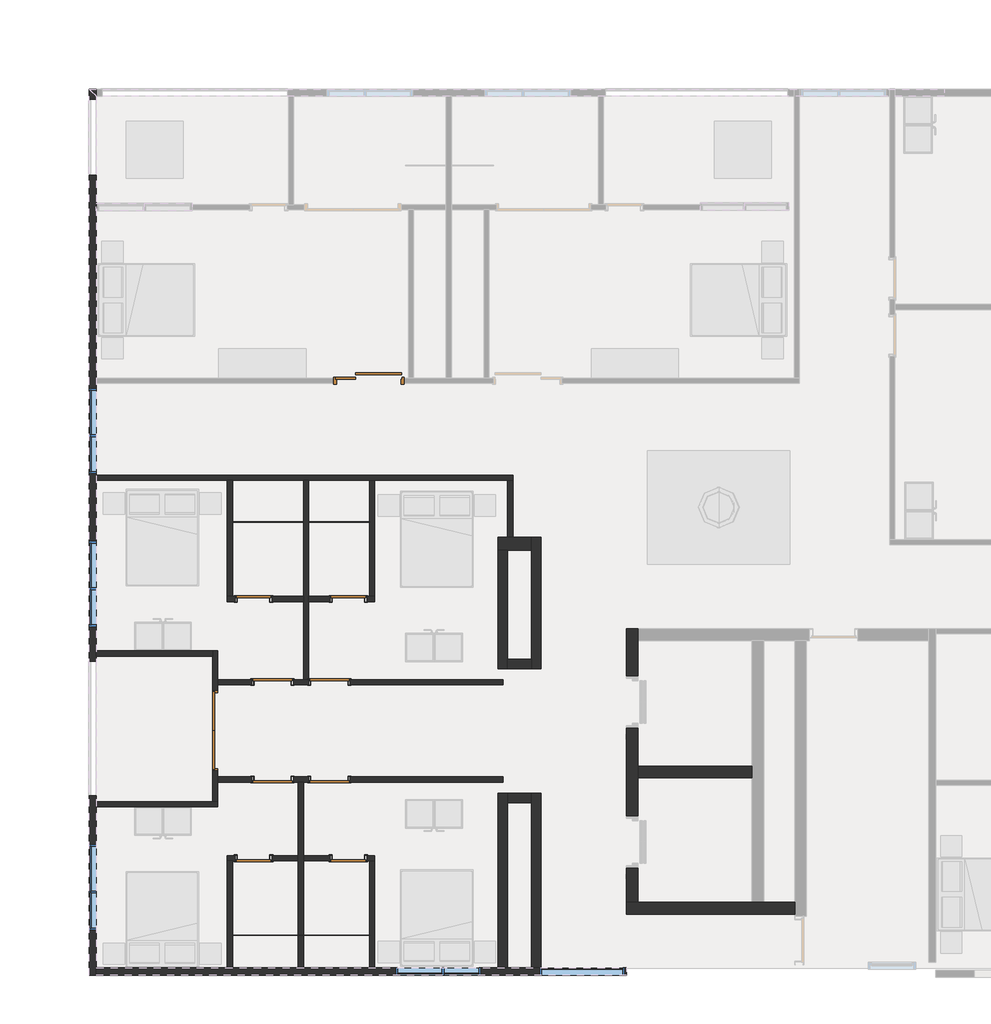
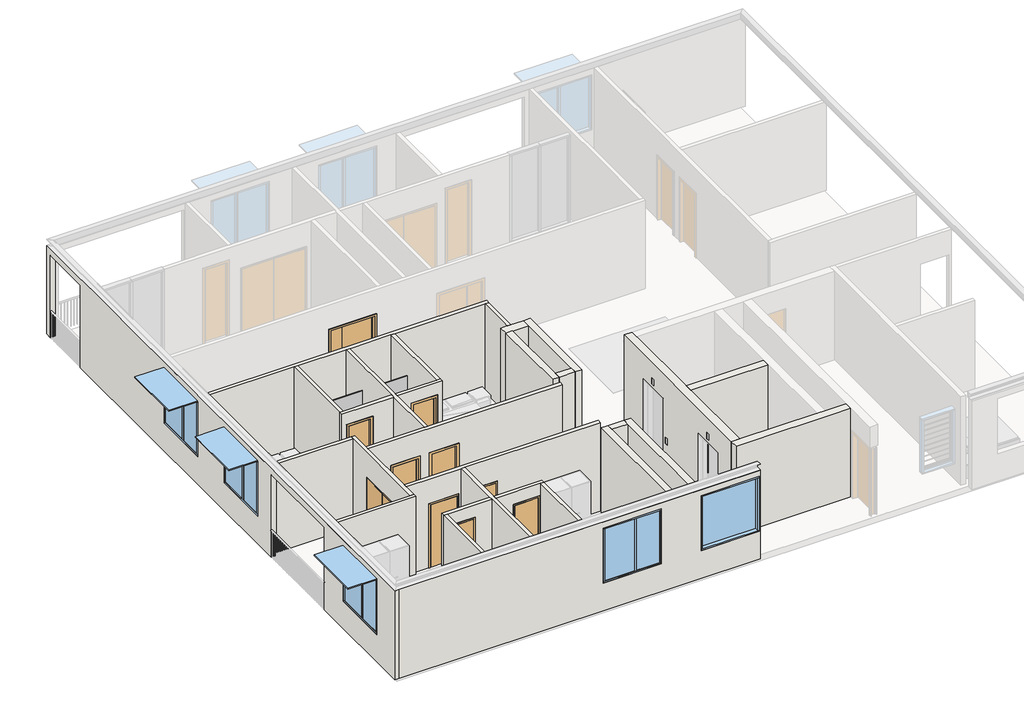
# One storey, part 1 of 4: 27 walls, 10 doors, 5 windows, 2 plates.
"""IFC4 building model written with IfcOpenShell, lengths in millimetres."""

from ifc_helpers import new_model, si_unit, frame, origin, place, context, project, spatial, polyline, outline, extrude, faceted_brep, transform, mapped, element, save
from components import swing_double_aluminium_frame_door_2040x820x2_fabc3898, swing_double_metal_frame_double_uneven_2040x970_420_093d1636, swing_metal_frame_single_dor_a031a637, swing_metal_frame_single_dor_bd4720e7, swing_metal_frame_single_dor1_05198c53, swing_metal_frame_single_dor1_61deca97, system_panel_glazed_5122fece, system_panel_glazed_13d4595b, window_bottom_hung_window_bottom_hung_09912109, window_bottom_hung_window_bottom_hung_26d81d5b, window_fixed_1800mm_wide_217cd763

model = new_model("IFC4")

# Units and contexts
model_context = context("Model", 3, world=origin())
ifc_project = project(units=[si_unit("LENGTHUNIT", "METRE", prefix="MILLI")], contexts=[model_context])

# Site, building, storey
site = spatial("IfcSite", under=ifc_project)
building = spatial("IfcBuilding", under=site)
storey = spatial("IfcBuildingStorey", under=building, Name="8階", Elevation=51600.0)

# Doors
placement = place(None, origin())
swing_double_aluminium_frame_door_2040x820x2_shape = swing_double_aluminium_frame_door_2040x820x2_fabc3898(model_context)
element("IfcDoor", 1, ObjectType="Swing_Double : Aluminium Frame Door 2040x820x2", at=placement, inside=storey, context=model_context, shape_type="MappedRepresentation", body=[
    mapped(swing_double_aluminium_frame_door_2040x820x2_shape, transform((5024.6057353, 4981.8578951, 51600.0), x_axis=(0.0, -1.0, 0.0), y_axis=(1.0, 0.0, 0.0), z_axis=(0.0, 0.0, 1.0))),
])
swing_double_metal_frame_double_uneven_2040x970_420_shape = swing_double_metal_frame_double_uneven_2040x970_420_093d1636(model_context)
element("IfcDoor", 2, ObjectType="Swing_Double : Metal Frame Double Uneven - 2040x970+420", at=placement, inside=storey, context=model_context, shape_type="MappedRepresentation", body=[
    mapped(swing_double_metal_frame_double_uneven_2040x970_420_shape, transform((8053.1645991, 12565.7680774, 51600.0), x_axis=(-1.0, 0.0, 0.0), y_axis=(0.0, -1.0, 0.0), z_axis=(0.0, 0.0, 1.0))),
])
swing_metal_frame_single_dor_shape = swing_metal_frame_single_dor_a031a637(model_context)
element("IfcDoor", 3, ObjectType="Swing_Metal Frame_Single_DOR : 2040h x 820 (2110x920 STUD)", at=placement, inside=storey, context=model_context, shape_type="MappedRepresentation", body=[
    mapped(swing_metal_frame_single_dor_shape, transform((7434.6645991, 4161.2680774, 51600.0), x_axis=(1.0, 0.0, 0.0), y_axis=(0.0, 1.0, 0.0), z_axis=(0.0, 0.0, 1.0))),
])
element("IfcDoor", 4, ObjectType="Swing_Metal Frame_Single_DOR : 2040h x 820 (2110x920 STUD)", at=placement, inside=storey, context=model_context, shape_type="MappedRepresentation", body=[
    mapped(swing_metal_frame_single_dor_shape, transform((6234.6645991, 6214.2680774, 51600.0), x_axis=(-1.0, 0.0, 0.0), y_axis=(0.0, -1.0, 0.0), z_axis=(0.0, 0.0, 1.0))),
])
swing_metal_frame_single_dor_2_shape = swing_metal_frame_single_dor_bd4720e7(model_context)
element("IfcDoor", 5, ObjectType="Swing_Metal Frame_Single_DOR : 2040h x 820 (2110x920 STUD)", at=placement, inside=storey, context=model_context, shape_type="MappedRepresentation", body=[
    mapped(swing_metal_frame_single_dor_2_shape, transform((6234.6645991, 4161.2680774, 51600.0), x_axis=(-1.0, 0.0, 0.0), y_axis=(0.0, -1.0, 0.0), z_axis=(0.0, 0.0, 1.0))),
])
element("IfcDoor", 6, ObjectType="Swing_Metal Frame_Single_DOR : 2040h x 820 (2110x920 STUD)", at=placement, inside=storey, context=model_context, shape_type="MappedRepresentation", body=[
    mapped(swing_metal_frame_single_dor_2_shape, transform((7434.6645991, 6214.2680774, 51600.0), x_axis=(1.0, 0.0, 0.0), y_axis=(0.0, 1.0, 0.0), z_axis=(0.0, 0.0, 1.0))),
])
swing_metal_frame_single_dor1_shape = swing_metal_frame_single_dor1_05198c53(model_context)
element("IfcDoor", 7, ObjectType="Swing_Metal Frame_Single_DOR1 : 2040h x 720 (2110x820 STUD)", at=placement, inside=storey, context=model_context, shape_type="MappedRepresentation", body=[
    mapped(swing_metal_frame_single_dor1_shape, transform((7834.6645991, 2501.0912238, 51600.0), x_axis=(-1.0, 0.0, 0.0), y_axis=(0.0, -1.0, 0.0), z_axis=(0.0, 0.0, 1.0))),
])
element("IfcDoor", 8, ObjectType="Swing_Metal Frame_Single_DOR1 : 2040h x 720 (2110x820 STUD)", at=placement, inside=storey, context=model_context, shape_type="MappedRepresentation", body=[
    mapped(swing_metal_frame_single_dor1_shape, transform((5834.6645991, 7965.493553, 51600.0), x_axis=(1.0, 0.0, 0.0), y_axis=(0.0, 1.0, 0.0), z_axis=(0.0, 0.0, 1.0))),
])
swing_metal_frame_single_dor1_2_shape = swing_metal_frame_single_dor1_61deca97(model_context)
element("IfcDoor", 9, ObjectType="Swing_Metal Frame_Single_DOR1 : 2040h x 720 (2110x820 STUD)", at=placement, inside=storey, context=model_context, shape_type="MappedRepresentation", body=[
    mapped(swing_metal_frame_single_dor1_2_shape, transform((5834.6645991, 2501.0912238, 51600.0), x_axis=(1.0, 0.0, 0.0), y_axis=(0.0, 1.0, 0.0), z_axis=(0.0, 0.0, 1.0))),
])
element("IfcDoor", 10, ObjectType="Swing_Metal Frame_Single_DOR1 : 2040h x 720 (2110x820 STUD)", at=placement, inside=storey, context=model_context, shape_type="MappedRepresentation", body=[
    mapped(swing_metal_frame_single_dor1_2_shape, transform((7834.6645991, 7965.493553, 51600.0), x_axis=(-1.0, 0.0, 0.0), y_axis=(0.0, -1.0, 0.0), z_axis=(0.0, 0.0, 1.0))),
])

# Plates
system_panel_glazed_shape = system_panel_glazed_5122fece(model_context)
element("IfcPlate", 11, ObjectType="System Panel : Glazed", at=placement, inside=storey, context=model_context, shape_type="MappedRepresentation", body=[
    mapped(system_panel_glazed_shape, transform((6834.6645991, 874.0898177, 51600.0), x_axis=(1.0, 0.0, 0.0), y_axis=(0.0, 1.0, 0.0), z_axis=(0.0, 0.0, 1.0))),
])
system_panel_glazed_2_shape = system_panel_glazed_13d4595b(model_context)
element("IfcPlate", 12, ObjectType="System Panel : Glazed", at=placement, inside=storey, context=model_context, shape_type="MappedRepresentation", body=[
    mapped(system_panel_glazed_2_shape, transform((6834.6645991, 9592.4949591, 51600.0), x_axis=(1.0, 0.0, 0.0), y_axis=(0.0, 1.0, 0.0), z_axis=(0.0, 0.0, 1.0))),
])

# Walls
element("IfcWall", 13, ObjectType="Brickwork_Double_270mm", at=placement, inside=storey, context=model_context, shape_type="Brep", body=[
    faceted_brep([(10994.6062665, 8996.2680774, 51600.0), (11694.6062665, 8996.2680774, 51600.0), (11694.6062665, 8996.2680774, 54500.0), (10994.6062665, 8996.2680774, 54500.0), (10994.6062665, 9266.2680774, 51600.0), (10994.6062665, 9266.2680774, 54500.0), (11194.6062665, 9266.2680774, 54500.0), (11304.6062665, 9266.2680774, 54500.0), (11694.6062665, 9266.2680774, 54500.0), (11694.6062665, 9266.2680774, 51600.0), (11304.6062665, 9266.2680774, 51600.0), (11194.6062665, 9266.2680774, 51600.0)], [[[0, 1, 2, 3]], [[4, 5, 6, 7, 8, 9, 10, 11]], [[1, 0, 4, 11, 10, 9]], [[3, 2, 8, 7, 6, 5]], [[0, 3, 5, 4]], [[2, 1, 9, 8]]]),
])
element("IfcWall", 14, ObjectType="Whte Paint Finish", at=placement, inside=storey, context=model_context, shape_type="Brep", body=[
    faceted_brep([(2519.6057353, 39.0898177, 54500.0), (13694.6062665, 39.0898177, 54500.0), (13694.6062665, 189.0898177, 54500.0), (11894.6062665, 189.0898177, 54500.0), (11694.6062665, 189.0898177, 54500.0), (8389.6645991, 189.0898177, 54500.0), (8279.6645991, 189.0898177, 54500.0), (6889.6645991, 189.0898177, 54500.0), (6779.6645991, 189.0898177, 54500.0), (5389.6645991, 189.0898177, 54500.0), (5279.6645991, 189.0898177, 54500.0), (2519.6057353, 189.0898177, 54500.0), (11869.6062665, 39.0898177, 52500.0), (13669.6062665, 39.0898177, 52500.0), (13669.6062665, 189.0898177, 52500.0), (11869.6062665, 189.0898177, 52500.0), (13669.6062665, 39.0898177, 54300.0), (13669.6062665, 189.0898177, 54300.0), (11869.6062665, 39.0898177, 54300.0), (11869.6062665, 189.0898177, 54300.0), (2519.6057353, 39.0898177, 51600.0), (13694.6062665, 39.0898177, 51600.0), (10634.6645991, 39.0898177, 52500.0), (8834.6645991, 39.0898177, 52500.0), (8834.6645991, 39.0898177, 54300.0), (10634.6645991, 39.0898177, 54300.0), (2519.6057353, 189.0898177, 51600.0), (13694.6062665, 189.0898177, 51600.0), (11894.6062665, 189.0898177, 51600.0), (11694.6062665, 189.0898177, 51600.0), (8389.6645991, 189.0898177, 51600.0), (8279.6645991, 189.0898177, 51600.0), (6889.6645991, 189.0898177, 51600.0), (6779.6645991, 189.0898177, 51600.0), (5389.6645991, 189.0898177, 51600.0), (5279.6645991, 189.0898177, 51600.0), (10634.6645991, 189.0898177, 52500.0), (10634.6645991, 189.0898177, 54300.0), (8834.6645991, 189.0898177, 54300.0), (8834.6645991, 189.0898177, 52500.0)], [[[0, 1, 2, 3, 4, 5, 6, 7, 8, 9, 10, 11]], [[12, 13, 14, 15]], [[13, 16, 17, 14]], [[16, 18, 19, 17]], [[18, 12, 15, 19]], [[20, 21, 1, 0], [12, 18, 16, 13], [22, 23, 24, 25]], [[26, 11, 10, 9, 8, 7, 6, 5, 4, 3, 2, 27, 28, 29, 30, 31, 32, 33, 34, 35], [15, 14, 17, 19], [36, 37, 38, 39]], [[21, 20, 26, 35, 34, 33, 32, 31, 30, 29, 28, 27]], [[1, 21, 27, 2]], [[20, 0, 11, 26]], [[37, 36, 22, 25]], [[38, 37, 25, 24]], [[39, 38, 24, 23]], [[36, 39, 23, 22]]]),
])
element("IfcWall", 15, ObjectType="Whte Paint Finish", at=placement, inside=storey, context=model_context, shape_type="Brep", body=[
    faceted_brep([(2369.6057353, 18710.0, 54500.0), (2369.6057353, 39.0898177, 54500.0), (2519.6057353, 39.0898177, 54500.0), (2519.6057353, 189.0898177, 54500.0), (2519.6057353, 3586.2680774, 54500.0), (2519.6057353, 3696.2680774, 54500.0), (2519.6057353, 6764.2680774, 54500.0), (2519.6057353, 6874.2680774, 54500.0), (2519.6057353, 10465.005792, 54500.0), (2519.6057353, 10575.005792, 54500.0), (2519.6057353, 12510.7680774, 54500.0), (2519.6057353, 12620.7680774, 54500.0), (2519.6057353, 18560.0, 54500.0), (2519.6057353, 18710.0, 54500.0), (2519.6057353, 39.0898177, 51600.0), (2519.6057353, 189.0898177, 51600.0), (2519.6057353, 3586.2680774, 51600.0), (2519.6057353, 3696.2680774, 51600.0), (2519.6057353, 3816.2680774, 51600.0), (2519.6057353, 3816.2680774, 54300.0), (2519.6057353, 6650.3166994, 54300.0), (2519.6057353, 6650.3166994, 51600.0), (2519.6057353, 6764.2680774, 51600.0), (2519.6057353, 6874.2680774, 51600.0), (2519.6057353, 10465.005792, 51600.0), (2519.6057353, 10575.005792, 51600.0), (2519.6057353, 12510.7680774, 51600.0), (2519.6057353, 12620.7680774, 51600.0), (2519.6057353, 16894.8875971, 51600.0), (2519.6057353, 16894.8875971, 54300.0), (2519.6057353, 18500.0, 54300.0), (2519.6057353, 18500.0, 51600.0), (2519.6057353, 18560.0, 51600.0), (2519.6057353, 18710.0, 51600.0), (2519.6057353, 10605.7680774, 52500.0), (2519.6057353, 10605.7680774, 54300.0), (2519.6057353, 12405.7680774, 54300.0), (2519.6057353, 12405.7680774, 52500.0), (2519.6057353, 990.6340387, 52500.0), (2519.6057353, 990.6340387, 54300.0), (2519.6057353, 2790.6340387, 54300.0), (2519.6057353, 2790.6340387, 52500.0), (2519.6057353, 7385.3166994, 52500.0), (2519.6057353, 7385.3166994, 54300.0), (2519.6057353, 9185.3166994, 54300.0), (2519.6057353, 9185.3166994, 52500.0), (2369.6057353, 18710.0, 51600.0), (2369.6057353, 18500.0, 51600.0), (2369.6057353, 18500.0, 54300.0), (2369.6057353, 16894.8875971, 54300.0), (2369.6057353, 16894.8875971, 51600.0), (2369.6057353, 6650.3166994, 51600.0), (2369.6057353, 6650.3166994, 54300.0), (2369.6057353, 3816.2680774, 54300.0), (2369.6057353, 3816.2680774, 51600.0), (2369.6057353, 39.0898177, 51600.0), (2369.6057353, 10605.7680774, 52500.0), (2369.6057353, 12405.7680774, 52500.0), (2369.6057353, 12405.7680774, 54300.0), (2369.6057353, 10605.7680774, 54300.0), (2369.6057353, 990.6340387, 52500.0), (2369.6057353, 2790.6340387, 52500.0), (2369.6057353, 2790.6340387, 54300.0), (2369.6057353, 990.6340387, 54300.0), (2369.6057353, 7385.3166994, 52500.0), (2369.6057353, 9185.3166994, 52500.0), (2369.6057353, 9185.3166994, 54300.0), (2369.6057353, 7385.3166994, 54300.0)], [[[0, 1, 2, 3, 4, 5, 6, 7, 8, 9, 10, 11, 12, 13]], [[13, 12, 11, 10, 9, 8, 7, 6, 5, 4, 3, 2, 14, 15, 16, 17, 18, 19, 20, 21, 22, 23, 24, 25, 26, 27, 28, 29, 30, 31, 32, 33], [34, 35, 36, 37], [38, 39, 40, 41], [42, 43, 44, 45]], [[1, 0, 46, 47, 48, 49, 50, 51, 52, 53, 54, 55], [56, 57, 58, 59], [60, 61, 62, 63], [64, 65, 66, 67]], [[21, 51, 50, 28, 27, 26, 25, 24, 23, 22]], [[46, 33, 32, 31, 47]], [[18, 17, 16, 15, 14, 55, 54]], [[53, 19, 18, 54]], [[20, 52, 51, 21]], [[19, 53, 52, 20]], [[49, 29, 28, 50]], [[30, 48, 47, 31]], [[29, 49, 48, 30]], [[55, 14, 2, 1]], [[13, 33, 46, 0]], [[35, 34, 56, 59]], [[36, 35, 59, 58]], [[37, 36, 58, 57]], [[34, 37, 57, 56]], [[39, 38, 60, 63]], [[40, 39, 63, 62]], [[41, 40, 62, 61]], [[38, 41, 61, 60]], [[43, 42, 64, 67]], [[44, 43, 67, 66]], [[45, 44, 66, 65]], [[42, 45, 65, 64]]]),
])
element("IfcWall", 16, ObjectType="Brickwork_Single_110mm", at=placement, inside=storey, context=model_context, shape_type="Brep", body=[
    faceted_brep([(5079.6057353, 4216.2680774, 54500.0), (11094.6062665, 4216.2680774, 54500.0), (11094.6062665, 4216.2680774, 51600.0), (7874.6645991, 4216.2680774, 51600.0), (7874.6645991, 4216.2680774, 53690.0), (6994.6645991, 4216.2680774, 53690.0), (6994.6645991, 4216.2680774, 51600.0), (6674.6645991, 4216.2680774, 51600.0), (6674.6645991, 4216.2680774, 53690.0), (5794.6645991, 4216.2680774, 53690.0), (5794.6645991, 4216.2680774, 51600.0), (5079.6057353, 4216.2680774, 51600.0), (11094.6062665, 4106.2680774, 54500.0), (6889.6645991, 4106.2680774, 54500.0), (6779.6645991, 4106.2680774, 54500.0), (5079.6057353, 4106.2680774, 54500.0), (5079.6057353, 4106.2680774, 51600.0), (5794.6645991, 4106.2680774, 51600.0), (5794.6645991, 4106.2680774, 53690.0), (6674.6645991, 4106.2680774, 53690.0), (6674.6645991, 4106.2680774, 51600.0), (6779.6645991, 4106.2680774, 51600.0), (6889.6645991, 4106.2680774, 51600.0), (6994.6645991, 4106.2680774, 51600.0), (6994.6645991, 4106.2680774, 53690.0), (7874.6645991, 4106.2680774, 53690.0), (7874.6645991, 4106.2680774, 51600.0), (11094.6062665, 4106.2680774, 51600.0)], [[[0, 1, 2, 3, 4, 5, 6, 7, 8, 9, 10, 11]], [[12, 13, 14, 15, 16, 17, 18, 19, 20, 21, 22, 23, 24, 25, 26, 27]], [[2, 27, 26, 3]], [[16, 11, 10, 17]], [[20, 7, 6, 23, 22, 21]], [[1, 0, 15, 14, 13, 12]], [[2, 1, 12, 27]], [[0, 11, 16, 15]], [[9, 18, 17, 10]], [[18, 9, 8, 19]], [[19, 8, 7, 20]], [[25, 4, 3, 26]], [[4, 25, 24, 5]], [[5, 24, 23, 6]]]),
])
element("IfcWall", 17, ObjectType="Brickwork_Single_110mm", at=placement, inside=storey, context=model_context, shape_type="Brep", body=[
    faceted_brep([(6779.6645991, 4106.2680774, 51600.0), (6779.6645991, 2556.0912238, 51600.0), (6779.6645991, 2446.0912238, 51600.0), (6779.6645991, 189.0898177, 51600.0), (6779.6645991, 189.0898177, 54500.0), (6779.6645991, 2446.0912238, 54500.0), (6779.6645991, 2556.0912238, 54500.0), (6779.6645991, 4106.2680774, 54500.0), (6889.6645991, 4106.2680774, 51600.0), (6889.6645991, 4106.2680774, 54500.0), (6889.6645991, 2556.0912238, 54500.0), (6889.6645991, 2446.0912238, 54500.0), (6889.6645991, 189.0898177, 54500.0), (6889.6645991, 189.0898177, 51600.0), (6889.6645991, 2446.0912238, 51600.0), (6889.6645991, 2556.0912238, 51600.0)], [[[0, 1, 2, 3, 4, 5, 6, 7]], [[8, 9, 10, 11, 12, 13, 14, 15]], [[3, 2, 1, 0, 8, 15, 14, 13]], [[7, 6, 5, 4, 12, 11, 10, 9]], [[4, 3, 13, 12]], [[0, 7, 9, 8]]]),
])
element("IfcWall", 18, ObjectType="Brickwork_Single_110mm", at=placement, inside=storey, context=model_context, shape_type="Brep", body=[
    faceted_brep([(8389.6645991, 2446.0912238, 51600.0), (8389.6645991, 2446.0912238, 54500.0), (8279.6645991, 2446.0912238, 54500.0), (6889.6645991, 2446.0912238, 54500.0), (6889.6645991, 2446.0912238, 51600.0), (7444.6645991, 2446.0912238, 51600.0), (7444.6645991, 2446.0912238, 54090.0), (8224.6645991, 2446.0912238, 54090.0), (8224.6645991, 2446.0912238, 51600.0), (8279.6645991, 2446.0912238, 51600.0), (8389.6645991, 2556.0912238, 54500.0), (8389.6645991, 2556.0912238, 51600.0), (8224.6645991, 2556.0912238, 51600.0), (8224.6645991, 2556.0912238, 54090.0), (7444.6645991, 2556.0912238, 54090.0), (7444.6645991, 2556.0912238, 51600.0), (6889.6645991, 2556.0912238, 51600.0), (6889.6645991, 2556.0912238, 54500.0)], [[[0, 1, 2, 3, 4, 5, 6, 7, 8, 9]], [[10, 11, 12, 13, 14, 15, 16, 17]], [[11, 0, 9, 8, 12]], [[15, 5, 4, 16]], [[1, 10, 17, 3, 2]], [[4, 3, 17, 16]], [[1, 0, 11, 10]], [[14, 6, 5, 15]], [[6, 14, 13, 7]], [[7, 13, 12, 8]]]),
    faceted_brep([(5279.6645991, 2446.0912238, 54500.0), (5279.6645991, 2446.0912238, 51600.0), (5389.6645991, 2446.0912238, 51600.0), (5444.6645991, 2446.0912238, 51600.0), (5444.6645991, 2446.0912238, 54090.0), (6224.6645991, 2446.0912238, 54090.0), (6224.6645991, 2446.0912238, 51600.0), (6779.6645991, 2446.0912238, 51600.0), (6779.6645991, 2446.0912238, 54500.0), (5389.6645991, 2446.0912238, 54500.0), (5279.6645991, 2556.0912238, 51600.0), (5279.6645991, 2556.0912238, 54500.0), (6779.6645991, 2556.0912238, 54500.0), (6779.6645991, 2556.0912238, 51600.0), (6224.6645991, 2556.0912238, 51600.0), (6224.6645991, 2556.0912238, 54090.0), (5444.6645991, 2556.0912238, 54090.0), (5444.6645991, 2556.0912238, 51600.0)], [[[0, 1, 2, 3, 4, 5, 6, 7, 8, 9]], [[10, 11, 12, 13, 14, 15, 16, 17]], [[1, 10, 17, 3, 2]], [[6, 14, 13, 7]], [[11, 0, 9, 8, 12]], [[8, 7, 13, 12]], [[1, 0, 11, 10]], [[5, 15, 14, 6]], [[15, 5, 4, 16]], [[16, 4, 3, 17]]]),
])
element("IfcWall", 19, ObjectType="Brickwork_Single_110mm", at=placement, inside=storey, context=model_context, shape_type="SweptSolid", body=[
    extrude(outline(polyline([(8279.6645991, 189.0898177), (8279.6645991, 2446.0912238), (8389.6645991, 2446.0912238), (8389.6645991, 189.0898177), (8279.6645991, 189.0898177)])), frame((0.0, 0.0, 51600.0), z_axis=(0.0, 0.0, 1.0), x_axis=(1.0, 0.0, 0.0)), (0.0, 0.0, 1.0), 2900.0),
])
element("IfcWall", 20, ObjectType="Brickwork_Single_110mm", at=placement, inside=storey, context=model_context, shape_type="SweptSolid", body=[
    extrude(outline(polyline([(5279.6645991, 189.0898177), (5279.6645991, 2446.0912238), (5389.6645991, 2446.0912238), (5389.6645991, 189.0898177), (5279.6645991, 189.0898177)])), frame((0.0, 0.0, 51600.0), z_axis=(0.0, 0.0, 1.0), x_axis=(1.0, 0.0, 0.0)), (0.0, 0.0, 1.0), 2900.0),
])
element("IfcWall", 21, ObjectType="Brickwork_Single_110mm", at=placement, inside=storey, context=model_context, shape_type="Brep", body=[
    faceted_brep([(2519.6057353, 3586.2680774, 51600.0), (5079.6057353, 3586.2680774, 51600.0), (5079.6057353, 3586.2680774, 54500.0), (2519.6057353, 3586.2680774, 54500.0), (2519.6057353, 3696.2680774, 51600.0), (2519.6057353, 3696.2680774, 54500.0), (4969.6057353, 3696.2680774, 54500.0), (5079.6057353, 3696.2680774, 54500.0), (5079.6057353, 3696.2680774, 51600.0), (4969.6057353, 3696.2680774, 51600.0)], [[[0, 1, 2, 3]], [[4, 5, 6, 7, 8, 9]], [[1, 0, 4, 9, 8]], [[3, 2, 7, 6, 5]], [[0, 3, 5, 4]], [[2, 1, 8, 7]]]),
])
element("IfcWall", 22, ObjectType="Brickwork_Single_110mm", at=placement, inside=storey, context=model_context, shape_type="Brep", body=[
    faceted_brep([(5079.6057353, 6034.3578951, 53681.0), (5079.6057353, 6034.3578951, 51600.0), (5079.6057353, 6159.2680774, 51600.0), (5079.6057353, 6269.2680774, 51600.0), (5079.6057353, 6874.2680774, 51600.0), (5079.6057353, 6874.2680774, 54500.0), (5079.6057353, 6269.2680774, 54500.0), (5079.6057353, 6159.2680774, 54500.0), (5079.6057353, 4216.2680774, 54500.0), (5079.6057353, 4106.2680774, 54500.0), (5079.6057353, 3696.2680774, 54500.0), (5079.6057353, 3696.2680774, 51600.0), (5079.6057353, 4106.2680774, 51600.0), (5079.6057353, 4216.2680774, 51600.0), (5079.6057353, 4352.3578951, 51600.0), (5079.6057353, 4352.3578951, 53681.0), (4969.6057353, 6874.2680774, 51600.0), (4969.6057353, 6764.2680774, 51600.0), (4969.6057353, 6034.3578951, 51600.0), (4969.6057353, 6034.3578951, 53681.0), (4969.6057353, 4352.3578951, 53681.0), (4969.6057353, 4352.3578951, 51600.0), (4969.6057353, 3696.2680774, 51600.0), (4969.6057353, 3696.2680774, 54500.0), (4969.6057353, 6764.2680774, 54500.0), (4969.6057353, 6874.2680774, 54500.0)], [[[0, 1, 2, 3, 4, 5, 6, 7, 8, 9, 10, 11, 12, 13, 14, 15]], [[16, 17, 18, 19, 20, 21, 22, 23, 24, 25]], [[14, 13, 12, 11, 22, 21]], [[4, 3, 2, 1, 18, 17, 16]], [[10, 9, 8, 7, 6, 5, 25, 24, 23]], [[11, 10, 23, 22]], [[5, 4, 16, 25]], [[19, 18, 1, 0]], [[20, 19, 0, 15]], [[21, 20, 15, 14]]]),
])
element("IfcWall", 23, ObjectType="Brickwork_Single_110mm", at=placement, inside=storey, context=model_context, shape_type="SweptSolid", body=[
    extrude(outline(polyline([(2519.6057353, 6874.2680774), (4969.6057353, 6874.2680774), (4969.6057353, 6764.2680774), (2519.6057353, 6764.2680774), (2519.6057353, 6874.2680774)])), frame((0.0, 0.0, 51600.0), z_axis=(0.0, 0.0, 1.0), x_axis=(1.0, 0.0, 0.0)), (0.0, 0.0, 1.0), 2900.0),
])
element("IfcWall", 24, ObjectType="Brickwork_Single_110mm", at=placement, inside=storey, context=model_context, shape_type="Brep", body=[
    faceted_brep([(11094.6062665, 6159.2680774, 51600.0), (11094.6062665, 6159.2680774, 54500.0), (5079.6057353, 6159.2680774, 54500.0), (5079.6057353, 6159.2680774, 51600.0), (5794.6645991, 6159.2680774, 51600.0), (5794.6645991, 6159.2680774, 53690.0), (6674.6645991, 6159.2680774, 53690.0), (6674.6645991, 6159.2680774, 51600.0), (6994.6645991, 6159.2680774, 51600.0), (6994.6645991, 6159.2680774, 53690.0), (7874.6645991, 6159.2680774, 53690.0), (7874.6645991, 6159.2680774, 51600.0), (11094.6062665, 6269.2680774, 54500.0), (11094.6062665, 6269.2680774, 51600.0), (7874.6645991, 6269.2680774, 51600.0), (7874.6645991, 6269.2680774, 53690.0), (6994.6645991, 6269.2680774, 53690.0), (6994.6645991, 6269.2680774, 51600.0), (6889.6645991, 6269.2680774, 51600.0), (6674.6645991, 6269.2680774, 51600.0), (6674.6645991, 6269.2680774, 53690.0), (5794.6645991, 6269.2680774, 53690.0), (5794.6645991, 6269.2680774, 51600.0), (5079.6057353, 6269.2680774, 51600.0), (5079.6057353, 6269.2680774, 54500.0), (6889.6645991, 6269.2680774, 54500.0), (6999.6645991, 6269.2680774, 54500.0)], [[[0, 1, 2, 3, 4, 5, 6, 7, 8, 9, 10, 11]], [[12, 13, 14, 15, 16, 17, 18, 19, 20, 21, 22, 23, 24, 25, 26]], [[13, 0, 11, 14]], [[3, 23, 22, 4]], [[7, 19, 18, 17, 8]], [[1, 0, 13, 12]], [[2, 1, 12, 26, 25, 24]], [[3, 2, 24, 23]], [[21, 5, 4, 22]], [[5, 21, 20, 6]], [[6, 20, 19, 7]], [[10, 15, 14, 11]], [[15, 10, 9, 16]], [[16, 9, 8, 17]]]),
])
element("IfcWall", 25, ObjectType="Brickwork_Single_110mm", at=placement, inside=storey, context=model_context, shape_type="Brep", body=[
    faceted_brep([(2519.6057353, 10465.005792, 51600.0), (5279.6645991, 10465.005792, 51600.0), (5389.6645991, 10465.005792, 51600.0), (6889.6645991, 10465.005792, 51600.0), (6999.6645991, 10465.005792, 51600.0), (8279.6645991, 10465.005792, 51600.0), (8389.6645991, 10465.005792, 51600.0), (11194.6062665, 10465.005792, 51600.0), (11304.6062665, 10465.005792, 51600.0), (11304.6062665, 10465.005792, 54500.0), (11194.6062665, 10465.005792, 54500.0), (8389.6645991, 10465.005792, 54500.0), (8279.6645991, 10465.005792, 54500.0), (6999.6645991, 10465.005792, 54500.0), (6889.6645991, 10465.005792, 54500.0), (5389.6645991, 10465.005792, 54500.0), (5279.6645991, 10465.005792, 54500.0), (2519.6057353, 10465.005792, 54500.0), (2519.6057353, 10575.005792, 51600.0), (2519.6057353, 10575.005792, 54500.0), (11304.6062665, 10575.005792, 54500.0), (11304.6062665, 10575.005792, 51600.0)], [[[0, 1, 2, 3, 4, 5, 6, 7, 8, 9, 10, 11, 12, 13, 14, 15, 16, 17]], [[18, 19, 20, 21]], [[8, 7, 6, 5, 4, 3, 2, 1, 0, 18, 21]], [[17, 16, 15, 14, 13, 12, 11, 10, 9, 20, 19]], [[0, 17, 19, 18]], [[9, 8, 21, 20]]]),
])
element("IfcWall", 26, ObjectType="Brickwork_Single_110mm", at=placement, inside=storey, context=model_context, shape_type="SweptSolid", body=[
    extrude(outline(polyline([(11194.6062665, 9266.2680774), (11194.6062665, 10465.005792), (11304.6062665, 10465.005792), (11304.6062665, 9266.2680774), (11194.6062665, 9266.2680774)])), frame((0.0, 0.0, 51600.0), z_axis=(0.0, 0.0, 1.0), x_axis=(1.0, 0.0, 0.0)), (0.0, 0.0, 1.0), 2900.0),
])
element("IfcWall", 27, ObjectType="Brickwork_Single_110mm", at=placement, inside=storey, context=model_context, shape_type="Brep", body=[
    faceted_brep([(6889.6645991, 10465.005792, 51600.0), (6889.6645991, 8020.493553, 51600.0), (6889.6645991, 7910.493553, 51600.0), (6889.6645991, 6269.2680774, 51600.0), (6889.6645991, 6269.2680774, 54500.0), (6889.6645991, 7910.493553, 54500.0), (6889.6645991, 8020.493553, 54500.0), (6889.6645991, 10465.005792, 54500.0), (6999.6645991, 10465.005792, 51600.0), (6999.6645991, 10465.005792, 54500.0), (6999.6645991, 8020.493553, 54500.0), (6999.6645991, 7910.493553, 54500.0), (6999.6645991, 6269.2680774, 54500.0), (6999.6645991, 6269.2680774, 51600.0), (6999.6645991, 7910.493553, 51600.0), (6999.6645991, 8020.493553, 51600.0), (6994.6645991, 6269.2680774, 51600.0)], [[[0, 1, 2, 3, 4, 5, 6, 7]], [[8, 9, 10, 11, 12, 13, 14, 15]], [[3, 2, 1, 0, 8, 15, 14, 13, 16]], [[7, 6, 5, 4, 12, 11, 10, 9]], [[4, 3, 16, 13, 12]], [[0, 7, 9, 8]]]),
])
element("IfcWall", 28, ObjectType="Brickwork_Single_110mm", at=placement, inside=storey, context=model_context, shape_type="Brep", body=[
    faceted_brep([(5279.6645991, 7910.493553, 54500.0), (5279.6645991, 7910.493553, 51600.0), (5444.6645991, 7910.493553, 51600.0), (5444.6645991, 7910.493553, 54090.0), (6224.6645991, 7910.493553, 54090.0), (6224.6645991, 7910.493553, 51600.0), (6889.6645991, 7910.493553, 51600.0), (6889.6645991, 7910.493553, 54500.0), (5279.6645991, 8020.493553, 51600.0), (5279.6645991, 8020.493553, 54500.0), (5389.6645991, 8020.493553, 54500.0), (6889.6645991, 8020.493553, 54500.0), (6889.6645991, 8020.493553, 51600.0), (6224.6645991, 8020.493553, 51600.0), (6224.6645991, 8020.493553, 54090.0), (5444.6645991, 8020.493553, 54090.0), (5444.6645991, 8020.493553, 51600.0), (5389.6645991, 8020.493553, 51600.0)], [[[0, 1, 2, 3, 4, 5, 6, 7]], [[8, 9, 10, 11, 12, 13, 14, 15, 16, 17]], [[1, 8, 17, 16, 2]], [[5, 13, 12, 6]], [[9, 0, 7, 11, 10]], [[7, 6, 12, 11]], [[1, 0, 9, 8]], [[4, 14, 13, 5]], [[14, 4, 3, 15]], [[15, 3, 2, 16]]]),
    faceted_brep([(8389.6645991, 7910.493553, 51600.0), (8389.6645991, 7910.493553, 54500.0), (6999.6645991, 7910.493553, 54500.0), (6999.6645991, 7910.493553, 51600.0), (7444.6645991, 7910.493553, 51600.0), (7444.6645991, 7910.493553, 54090.0), (8224.6645991, 7910.493553, 54090.0), (8224.6645991, 7910.493553, 51600.0), (8389.6645991, 8020.493553, 54500.0), (8389.6645991, 8020.493553, 51600.0), (8279.6645991, 8020.493553, 51600.0), (8224.6645991, 8020.493553, 51600.0), (8224.6645991, 8020.493553, 54090.0), (7444.6645991, 8020.493553, 54090.0), (7444.6645991, 8020.493553, 51600.0), (6999.6645991, 8020.493553, 51600.0), (6999.6645991, 8020.493553, 54500.0), (8279.6645991, 8020.493553, 54500.0)], [[[0, 1, 2, 3, 4, 5, 6, 7]], [[8, 9, 10, 11, 12, 13, 14, 15, 16, 17]], [[9, 0, 7, 11, 10]], [[14, 4, 3, 15]], [[1, 8, 17, 16, 2]], [[3, 2, 16, 15]], [[1, 0, 9, 8]], [[13, 5, 4, 14]], [[5, 13, 12, 6]], [[6, 12, 11, 7]]]),
])
element("IfcWall", 29, ObjectType="Brickwork_Single_110mm", at=placement, inside=storey, context=model_context, shape_type="SweptSolid", body=[
    extrude(outline(polyline([(8279.6645991, 8020.493553), (8279.6645991, 10465.005792), (8389.6645991, 10465.005792), (8389.6645991, 8020.493553), (8279.6645991, 8020.493553)])), frame((0.0, 0.0, 51600.0), z_axis=(0.0, 0.0, 1.0), x_axis=(1.0, 0.0, 0.0)), (0.0, 0.0, 1.0), 2900.0),
])
element("IfcWall", 30, ObjectType="Brickwork_Single_110mm", at=placement, inside=storey, context=model_context, shape_type="SweptSolid", body=[
    extrude(outline(polyline([(5279.6645991, 8020.493553), (5279.6645991, 10465.005792), (5389.6645991, 10465.005792), (5389.6645991, 8020.493553), (5279.6645991, 8020.493553)])), frame((0.0, 0.0, 51600.0), z_axis=(0.0, 0.0, 1.0), x_axis=(1.0, 0.0, 0.0)), (0.0, 0.0, 1.0), 2900.0),
])
element("IfcWall", 31, ObjectType="C1 - Concrete Type 2", at=placement, inside=storey, context=model_context, shape_type="SweptSolid", body=[
    extrude(outline(polyline([(11694.6062665, 6497.0008144), (11194.6062665, 6497.0008144), (11194.6062665, 6697.0008144), (11694.6062665, 6697.0008144), (11694.6062665, 6497.0008144)])), frame((0.0, 0.0, 51600.0), z_axis=(0.0, 0.0, 1.0), x_axis=(1.0, 0.0, 0.0)), (0.0, 0.0, 1.0), 2900.0),
])
element("IfcWall", 32, ObjectType="C1 - Concrete Type 2", at=placement, inside=storey, context=model_context, shape_type="Brep", body=[
    faceted_brep([(11194.6062665, 6497.0008144, 51600.0), (11194.6062665, 6697.0008144, 51600.0), (11194.6062665, 8997.0008144, 51600.0), (11194.6062665, 8997.0008144, 54500.0), (11194.6062665, 6697.0008144, 54500.0), (11194.6062665, 6497.0008144, 54500.0), (10994.6062665, 6497.0008144, 51600.0), (10994.6062665, 6497.0008144, 54500.0), (10994.6062665, 8997.0008144, 54500.0), (10994.6062665, 8997.0008144, 51600.0)], [[[0, 1, 2, 3, 4, 5]], [[6, 7, 8, 9]], [[2, 1, 0, 6, 9]], [[3, 2, 9, 8]], [[5, 4, 3, 8, 7]], [[0, 5, 7, 6]]]),
])
element("IfcWall", 33, ObjectType="C1 - Concrete Type 2", at=placement, inside=storey, context=model_context, shape_type="SweptSolid", body=[
    extrude(outline(polyline([(11694.6062665, 3673.0), (11194.6062665, 3673.0), (11194.6062665, 3873.0), (11694.6062665, 3873.0), (11694.6062665, 3673.0)])), frame((0.0, 0.0, 51600.0), z_axis=(0.0, 0.0, 1.0), x_axis=(1.0, 0.0, 0.0)), (0.0, 0.0, 1.0), 2900.0),
])
element("IfcWall", 34, ObjectType="C1 - Concrete Type 2", at=placement, inside=storey, context=model_context, shape_type="Brep", body=[
    faceted_brep([(11194.6062665, 114.0898177, 51600.0), (11194.6062665, 3673.0, 51600.0), (11194.6062665, 3873.0, 51600.0), (11194.6062665, 3873.0, 54500.0), (11194.6062665, 3673.0, 54500.0), (11194.6062665, 114.0898177, 54500.0), (10994.6062665, 114.0898177, 51600.0), (10994.6062665, 114.0898177, 54500.0), (10994.6062665, 3873.0, 54500.0), (10994.6062665, 3873.0, 51600.0)], [[[0, 1, 2, 3, 4, 5]], [[6, 7, 8, 9]], [[2, 1, 0, 6, 9]], [[3, 2, 9, 8]], [[5, 4, 3, 8, 7]], [[0, 5, 7, 6]]]),
])
element("IfcWall", 35, ObjectType="C1 - Concrete Type 2", at=placement, inside=storey, context=model_context, shape_type="Brep", body=[
    faceted_brep([(11894.6062665, 6497.0008144, 51600.0), (11894.6062665, 9266.2680774, 51600.0), (11894.6062665, 9266.2680774, 54500.0), (11894.6062665, 6497.0008144, 54500.0), (11694.6062665, 6497.0008144, 51600.0), (11694.6062665, 6497.0008144, 54500.0), (11694.6062665, 6697.0008144, 54500.0), (11694.6062665, 8996.2680774, 54500.0), (11694.6062665, 9266.2680774, 54500.0), (11694.6062665, 9266.2680774, 51600.0), (11694.6062665, 8996.2680774, 51600.0), (11694.6062665, 6697.0008144, 51600.0)], [[[0, 1, 2, 3]], [[4, 5, 6, 7, 8, 9, 10, 11]], [[1, 0, 4, 11, 10, 9]], [[2, 1, 9, 8]], [[3, 2, 8, 7, 6, 5]], [[0, 3, 5, 4]]]),
])
element("IfcWall", 36, ObjectType="C1 - Concrete Type 2", at=placement, inside=storey, context=model_context, shape_type="Brep", body=[
    faceted_brep([(11694.6062665, 3873.0, 51600.0), (11694.6062665, 3673.0, 51600.0), (11694.6062665, 189.0898177, 51600.0), (11694.6062665, 189.0898177, 54500.0), (11694.6062665, 3673.0, 54500.0), (11694.6062665, 3873.0, 54500.0), (11894.6062665, 3873.0, 51600.0), (11894.6062665, 3873.0, 54500.0), (11894.6062665, 189.0898177, 54500.0), (11894.6062665, 189.0898177, 51600.0)], [[[0, 1, 2, 3, 4, 5]], [[6, 7, 8, 9]], [[2, 1, 0, 6, 9]], [[5, 4, 3, 8, 7]], [[0, 5, 7, 6]], [[3, 2, 9, 8]]]),
])
element("IfcWall", 37, ObjectType="C1 - Concrete Type 3 - 250mm", at=placement, inside=storey, context=model_context, shape_type="Brep", body=[
    faceted_brep([(13694.6062665, 1325.0, 51600.0), (17244.6062665, 1325.0, 51600.0), (17244.6062665, 1325.0, 54500.0), (13694.6062665, 1325.0, 54500.0), (13694.6062665, 1575.0, 51600.0), (13694.6062665, 1575.0, 54500.0), (13944.6062665, 1575.0, 54500.0), (16344.6062665, 1575.0, 54500.0), (16594.6062665, 1575.0, 54500.0), (17244.6062665, 1575.0, 54500.0), (17244.6062665, 1575.0, 51600.0), (16594.6062665, 1575.0, 51600.0), (16344.6062665, 1575.0, 51600.0), (13944.6062665, 1575.0, 51600.0)], [[[0, 1, 2, 3]], [[4, 5, 6, 7, 8, 9, 10, 11, 12, 13]], [[1, 0, 4, 13, 12, 11, 10]], [[3, 2, 9, 8, 7, 6, 5]], [[0, 3, 5, 4]], [[2, 1, 10, 9]]]),
])
element("IfcWall", 38, ObjectType="C1 - Concrete Type 3 - 250mm", at=placement, inside=storey, context=model_context, shape_type="SweptSolid", body=[
    extrude(outline(polyline([(16344.6062665, 4195.0), (13944.6062665, 4195.0), (13944.6062665, 4445.0), (16344.6062665, 4445.0), (16344.6062665, 4195.0)])), frame((0.0, 0.0, 51600.0), z_axis=(0.0, 0.0, 1.0), x_axis=(1.0, 0.0, 0.0)), (0.0, 0.0, 1.0), 2900.0),
])
element("IfcWall", 39, ObjectType="C1 - Concrete Type 3 - 250mm", at=placement, inside=storey, context=model_context, shape_type="Brep", body=[
    faceted_brep([(13944.6062665, 7335.0, 54500.0), (13944.6062665, 7085.0, 54500.0), (13944.6062665, 4445.0, 54500.0), (13944.6062665, 4195.0, 54500.0), (13944.6062665, 1575.0, 54500.0), (13944.6062665, 1575.0, 51600.0), (13944.6062665, 2295.0, 51600.0), (13944.6062665, 2295.0, 53700.0), (13944.6062665, 3395.0, 53700.0), (13944.6062665, 3395.0, 51600.0), (13944.6062665, 4195.0, 51600.0), (13944.6062665, 4445.0, 51600.0), (13944.6062665, 5245.0, 51600.0), (13944.6062665, 5245.0, 53700.0), (13944.6062665, 6345.0, 53700.0), (13944.6062665, 6345.0, 51600.0), (13944.6062665, 7085.0, 51600.0), (13944.6062665, 7335.0, 51600.0), (13694.6062665, 1575.0, 54500.0), (13694.6062665, 7335.0, 54500.0), (13694.6062665, 7335.0, 51600.0), (13694.6062665, 6345.0, 51600.0), (13694.6062665, 6345.0, 53700.0), (13694.6062665, 5245.0, 53700.0), (13694.6062665, 5245.0, 51600.0), (13694.6062665, 3395.0, 51600.0), (13694.6062665, 3395.0, 53700.0), (13694.6062665, 2295.0, 53700.0), (13694.6062665, 2295.0, 51600.0), (13694.6062665, 1575.0, 51600.0), (13694.6062665, 2165.0, 52300.0), (13694.6062665, 2165.0, 52500.0), (13694.6062665, 2065.0, 52500.0), (13694.6062665, 2065.0, 52300.0), (13694.6062665, 2895.0, 53800.0), (13694.6062665, 2895.0, 54000.0), (13694.6062665, 2795.0, 54000.0), (13694.6062665, 2795.0, 53800.0), (13694.6062665, 5115.0, 52300.0), (13694.6062665, 5115.0, 52500.0), (13694.6062665, 5015.0, 52500.0), (13694.6062665, 5015.0, 52300.0), (13694.6062665, 5845.0, 53800.0), (13694.6062665, 5845.0, 54000.0), (13694.6062665, 5745.0, 54000.0), (13694.6062665, 5745.0, 53800.0), (13714.6062665, 2165.0, 52300.0), (13714.6062665, 2065.0, 52300.0), (13714.6062665, 2065.0, 52500.0), (13714.6062665, 2165.0, 52500.0), (13714.6062665, 2895.0, 53800.0), (13714.6062665, 2795.0, 53800.0), (13714.6062665, 2795.0, 54000.0), (13714.6062665, 2895.0, 54000.0), (13714.6062665, 5115.0, 52300.0), (13714.6062665, 5015.0, 52300.0), (13714.6062665, 5015.0, 52500.0), (13714.6062665, 5115.0, 52500.0), (13714.6062665, 5845.0, 53800.0), (13714.6062665, 5745.0, 53800.0), (13714.6062665, 5745.0, 54000.0), (13714.6062665, 5845.0, 54000.0)], [[[0, 1, 2, 3, 4, 5, 6, 7, 8, 9, 10, 11, 12, 13, 14, 15, 16, 17]], [[18, 19, 20, 21, 22, 23, 24, 25, 26, 27, 28, 29], [30, 31, 32, 33], [34, 35, 36, 37], [38, 39, 40, 41], [42, 43, 44, 45]], [[6, 5, 29, 28]], [[9, 25, 24, 12, 11, 10]], [[20, 17, 16, 15, 21]], [[4, 3, 2, 1, 0, 19, 18]], [[27, 7, 6, 28]], [[8, 26, 25, 9]], [[7, 27, 26, 8]], [[46, 47, 48, 49]], [[46, 49, 31, 30]], [[49, 48, 32, 31]], [[48, 47, 33, 32]], [[47, 46, 30, 33]], [[50, 51, 52, 53]], [[50, 53, 35, 34]], [[53, 52, 36, 35]], [[52, 51, 37, 36]], [[51, 50, 34, 37]], [[23, 13, 12, 24]], [[14, 22, 21, 15]], [[13, 23, 22, 14]], [[54, 55, 56, 57]], [[54, 57, 39, 38]], [[57, 56, 40, 39]], [[56, 55, 41, 40]], [[55, 54, 38, 41]], [[58, 59, 60, 61]], [[58, 61, 43, 42]], [[61, 60, 44, 43]], [[60, 59, 45, 44]], [[59, 58, 42, 45]], [[0, 17, 20, 19]], [[5, 4, 18, 29]]]),
])

# Windows
window_bottom_hung_window_bottom_hung_shape = window_bottom_hung_window_bottom_hung_09912109(model_context)
element("IfcWindow", 40, ObjectType="Window_Bottom Hung : Window_Bottom Hung", at=placement, inside=storey, context=model_context, shape_type="MappedRepresentation", body=[
    mapped(window_bottom_hung_window_bottom_hung_shape, transform((2444.6057353, 8285.3166994, 51500.0), x_axis=(0.0, 1.0, 0.0), y_axis=(-1.0, 0.0, 0.0), z_axis=(0.0, 0.0, 1.0))),
])
element("IfcWindow", 41, ObjectType="Window_Bottom Hung : Window_Bottom Hung", at=placement, inside=storey, context=model_context, shape_type="MappedRepresentation", body=[
    mapped(window_bottom_hung_window_bottom_hung_shape, transform((2444.6057353, 1890.6340387, 51500.0), x_axis=(0.0, 1.0, 0.0), y_axis=(-1.0, 0.0, 0.0), z_axis=(0.0, 0.0, 1.0))),
])
element("IfcWindow", 42, ObjectType="Window_Bottom Hung : Window_Bottom Hung", at=placement, inside=storey, context=model_context, shape_type="MappedRepresentation", body=[
    mapped(window_bottom_hung_window_bottom_hung_shape, transform((2444.6057353, 11505.7680774, 51500.0), x_axis=(0.0, 1.0, 0.0), y_axis=(-1.0, 0.0, 0.0), z_axis=(0.0, 0.0, 1.0))),
])
window_bottom_hung_window_bottom_hung_2_shape = window_bottom_hung_window_bottom_hung_26d81d5b(model_context)
element("IfcWindow", 43, ObjectType="Window_Bottom Hung : Window_Bottom Hung", at=placement, inside=storey, context=model_context, shape_type="MappedRepresentation", body=[
    mapped(window_bottom_hung_window_bottom_hung_2_shape, transform((9734.6645991, 114.0898177, 51500.0), x_axis=(-1.0, 0.0, 0.0), y_axis=(0.0, -1.0, 0.0), z_axis=(0.0, 0.0, 1.0))),
])
window_fixed_1800mm_wide_shape = window_fixed_1800mm_wide_217cd763(model_context)
element("IfcWindow", 44, ObjectType="Window_Fixed : 1800mm Wide", at=placement, inside=storey, context=model_context, shape_type="MappedRepresentation", body=[
    mapped(window_fixed_1800mm_wide_shape, transform((12769.6062665, 114.0898177, 52250.0), x_axis=(1.0, 0.0, 0.0), y_axis=(0.0, 1.0, 0.0), z_axis=(0.0, 0.0, 1.0))),
])

save(model, "model.ifc")
